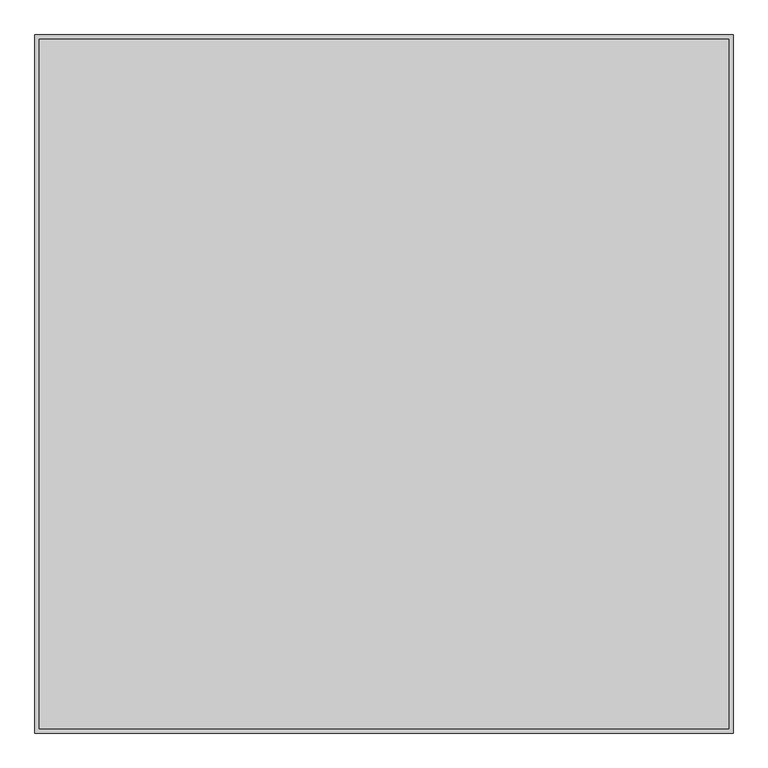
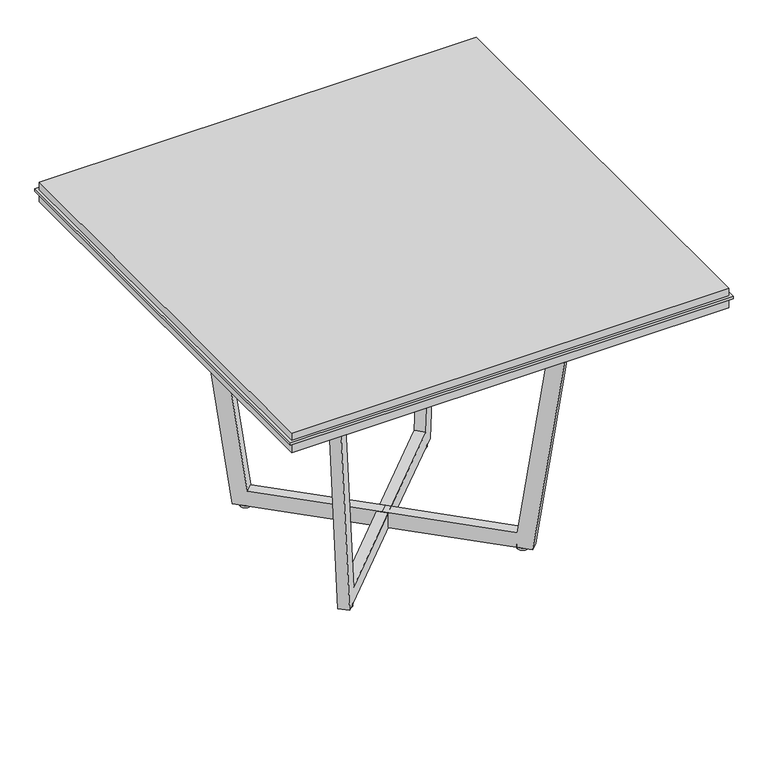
"""IFC4 building model written with IfcOpenShell, lengths in millimetres: furniture geometry, Knoll_Datesweiser_Tables_Meeting_Highline_Square : 42W Caesartone Open."""

from ifc_helpers import new_model, si_unit, point, frame, frame_2d, origin, origin_with_axes, place, context, project, spatial, polyline, circle_curve, trimmed, segment, composite_curve, outline, extrude, source, transform, mapped, element, save


def furniture_e1e12aae(model_context):
    return source(origin(), model_context, "Body", "SweptSolid", [
        extrude(outline(polyline([(533.4, 533.4), (533.4, -533.4), (-533.4, -533.4), (-533.4, 533.4), (533.4, 533.4)])), frame((0.0, 0.0, 698.5), z_axis=(0.0, 0.0, 1.0), x_axis=(1.0, 0.0, 0.0)), (0.0, 0.0, 1.0), 25.4),
        extrude(outline(polyline([(533.4, 533.4), (533.4, -533.4), (-533.4, -533.4), (-533.4, 533.4), (533.4, 533.4)])), frame((0.0, 0.0, 730.25), z_axis=(0.0, 0.0, 1.0), x_axis=(1.0, 0.0, 0.0)), (0.0, 0.0, 1.0), 19.05),
        extrude(outline(polyline([(539.75, 539.75), (539.75, -539.75), (-539.75, -539.75), (-539.75, 539.75), (539.75, 539.75)])), frame((0.0, 0.0, 723.9), z_axis=(0.0, 0.0, 1.0), x_axis=(1.0, 0.0, 0.0)), (0.0, 0.0, 1.0), 6.35),
        extrude(outline(composite_curve([segment(trimmed(circle_curve(frame_2d((-214.2640473, -214.2640473)), 12.7), [point((-201.5640473, -214.2640473))], [point((-226.9640473, -214.2640473))], False, "CARTESIAN"), True, "CONTINUOUS"), segment(trimmed(circle_curve(frame_2d((-214.2640473, -214.2640473)), 12.7), [point((-226.9640473, -214.2640473))], [point((-201.5640473, -214.2640473))], False, "CARTESIAN"), True, "CONTINUOUS")], self_intersect=False)), origin_with_axes(), (0.0, 0.0, 1.0), 5.9867797),
        extrude(outline(composite_curve([segment(trimmed(circle_curve(frame_2d((-214.2640473, 214.2640473)), 12.7), [point((-201.5640473, 214.2640473))], [point((-226.9640473, 214.2640473))], False, "CARTESIAN"), True, "CONTINUOUS"), segment(trimmed(circle_curve(frame_2d((-214.2640473, 214.2640473)), 12.7), [point((-226.9640473, 214.2640473))], [point((-201.5640473, 214.2640473))], False, "CARTESIAN"), True, "CONTINUOUS")], self_intersect=False)), origin_with_axes(), (0.0, 0.0, 1.0), 5.9867797),
        extrude(outline(composite_curve([segment(trimmed(circle_curve(frame_2d((214.2640473, -214.2640473)), 12.7), [point((226.9640473, -214.2640473))], [point((201.5640473, -214.2640473))], False, "CARTESIAN"), True, "CONTINUOUS"), segment(trimmed(circle_curve(frame_2d((214.2640473, -214.2640473)), 12.7), [point((201.5640473, -214.2640473))], [point((226.9640473, -214.2640473))], False, "CARTESIAN"), True, "CONTINUOUS")], self_intersect=False)), origin_with_axes(), (0.0, 0.0, 1.0), 5.9867797),
        extrude(outline(composite_curve([segment(trimmed(circle_curve(frame_2d((214.2640473, 214.2640473)), 12.7), [point((226.9640473, 214.2640473))], [point((201.5640473, 214.2640473))], False, "CARTESIAN"), True, "CONTINUOUS"), segment(trimmed(circle_curve(frame_2d((214.2640473, 214.2640473)), 12.7), [point((201.5640473, 214.2640473))], [point((226.9640473, 214.2640473))], False, "CARTESIAN"), True, "CONTINUOUS")], self_intersect=False)), origin_with_axes(), (0.0, 0.0, 1.0), 5.9867797),
        extrude(outline(polyline([(-328.4154116, 0.0), (0.0, 0.0), (96.4293466, -692.6387226), (57.9549435, -692.5888898), (-33.1691487, -38.0570712), (-328.4642085, -37.6745992), (-623.7592682, -37.2921272), (-716.578577, -691.5856987), (-755.0529801, -691.5358658), (-656.8297213, 0.8507388), (-328.4154116, 0.0)])), frame((223.2443137, -241.2048259, 5.9867797), z_axis=(0.7071067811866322, 0.7071067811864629, 0.0), x_axis=(0.7071061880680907, -0.70710618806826, -0.001295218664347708)), (0.0, 0.0, 1.0), 25.4),
        extrude(outline(polyline([(328.4154116, 0.0), (656.8297213, 0.8507388), (755.0529801, -691.5358658), (716.578577, -691.5856987), (623.7592682, -37.2921272), (328.4642085, -37.6745992), (33.1691487, -38.0570712), (-57.9549435, -692.5888898), (-96.4293466, -692.6387226), (0.0, 0.0), (328.4154116, 0.0)])), frame((-223.2443137, -241.2048259, 5.9867797), z_axis=(-0.707106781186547, 0.7071067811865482, 0.0), x_axis=(0.7071061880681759, 0.7071061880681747, 0.001295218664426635)), (0.0, 0.0, 1.0), 25.4),
    ])


if __name__ == "__main__":
    model = new_model("IFC4")
    model_context = context("Model", 3, world=origin())
    ifc_project = project(units=[si_unit("LENGTHUNIT", "METRE", prefix="MILLI")], contexts=[model_context])
    site = spatial("IfcSite", under=ifc_project)
    building = spatial("IfcBuilding", under=site)
    placement = place(None, origin())
    furniture_shape = furniture_e1e12aae(model_context)
    element("IfcFurniture", 1, ObjectType="Knoll_Datesweiser_Tables_Meeting_Highline_Square : 42W Caesartone Open", at=placement, inside=building, context=model_context, shape_type="MappedRepresentation", body=[
        mapped(furniture_shape, transform((0.0, 0.0, 0.0), x_axis=(1.0, 0.0, 0.0), y_axis=(0.0, 1.0, 0.0), z_axis=(0.0, 0.0, 1.0))),
    ])
    save(model, "model.ifc")
